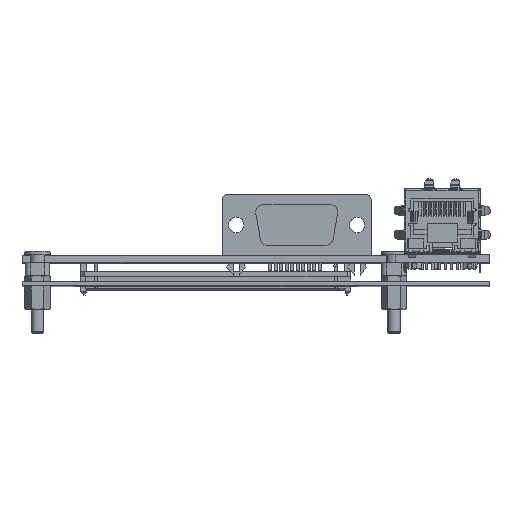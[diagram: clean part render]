
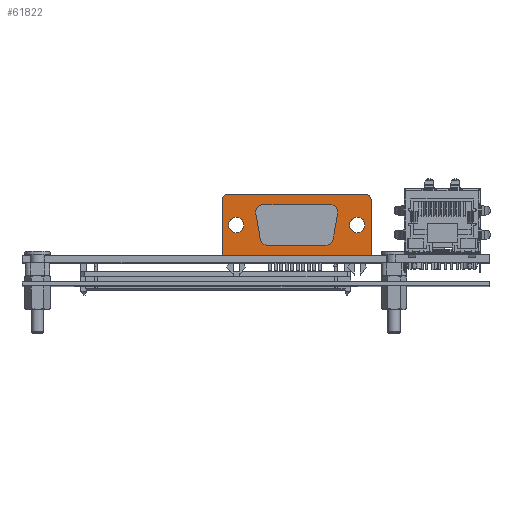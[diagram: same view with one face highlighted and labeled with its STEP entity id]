
A CAD part, top view. The second image highlights one B-rep face of the part: STEP entity #61822.
In plain terms, the highlighted planar face has unit normal (0, 0, 1).
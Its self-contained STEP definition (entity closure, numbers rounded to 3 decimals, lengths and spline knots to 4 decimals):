
#7135=DIRECTION('',(1.,0.,0.));
#7136=VECTOR('',#7135,1.213);
#7137=CARTESIAN_POINT('',(-0.2724,0.062,-0.8358));
#7138=LINE('',#7137,#7136);
#11996=DIRECTION('',(0.,-1.,0.));
#11997=VECTOR('',#11996,0.449);
#11998=CARTESIAN_POINT('',(-0.2724,0.511,-0.8358));
#11999=LINE('',#11998,#11997);
#12000=DIRECTION('',(-1.,0.,0.));
#12001=VECTOR('',#12000,1.123);
#12002=CARTESIAN_POINT('',(0.8956,0.556,-0.8358));
#12003=LINE('',#12002,#12001);
#12004=DIRECTION('',(0.,1.,0.));
#12005=VECTOR('',#12004,0.449);
#12006=CARTESIAN_POINT('',(0.9406,0.062,-0.8358));
#12007=LINE('',#12006,#12005);
#12008=CARTESIAN_POINT('',(-0.1579,0.309,-0.8358));
#12009=DIRECTION('',(0.,0.,1.));
#12010=DIRECTION('',(1.,0.,0.));
#12011=AXIS2_PLACEMENT_3D('',#12008,#12009,#12010);
#12013=CARTESIAN_POINT('',(-0.1579,0.309,-0.8358));
#12014=DIRECTION('',(0.,0.,1.));
#12015=DIRECTION('',(-1.,0.,0.));
#12016=AXIS2_PLACEMENT_3D('',#12013,#12014,#12015);
#12018=CARTESIAN_POINT('',(0.8261,0.309,-0.8358));
#12019=DIRECTION('',(0.,0.,1.));
#12020=DIRECTION('',(1.,0.,0.));
#12021=AXIS2_PLACEMENT_3D('',#12018,#12019,#12020);
#12023=CARTESIAN_POINT('',(0.8261,0.309,-0.8358));
#12024=DIRECTION('',(0.,0.,1.));
#12025=DIRECTION('',(-1.,0.,0.));
#12026=AXIS2_PLACEMENT_3D('',#12023,#12024,#12025);
#12028=DIRECTION('',(1.,0.,0.));
#12029=VECTOR('',#12028,0.4754);
#12030=CARTESIAN_POINT('',(0.0964,0.1445,-0.8358));
#12031=LINE('',#12030,#12029);
#12032=CARTESIAN_POINT('',(0.5718,0.2035,-0.8358));
#12033=DIRECTION('',(0.,0.,1.));
#12034=DIRECTION('',(0.,-1.,0.));
#12035=AXIS2_PLACEMENT_3D('',#12032,#12033,#12034);
#12037=DIRECTION('',(0.174,0.985,0.));
#12038=VECTOR('',#12037,0.2143);
#12039=CARTESIAN_POINT('',(0.6299,0.1933,-0.8358));
#12040=LINE('',#12039,#12038);
#12041=CARTESIAN_POINT('',(0.609,0.4145,-0.8358));
#12042=DIRECTION('',(0.,0.,1.));
#12043=DIRECTION('',(0.985,-0.174,0.));
#12044=AXIS2_PLACEMENT_3D('',#12041,#12042,#12043);
#12046=DIRECTION('',(-1.,0.,0.));
#12047=VECTOR('',#12046,0.5498);
#12048=CARTESIAN_POINT('',(0.609,0.4735,-0.8358));
#12049=LINE('',#12048,#12047);
#12050=CARTESIAN_POINT('',(0.0592,0.4145,-0.8358));
#12051=DIRECTION('',(0.,0.,1.));
#12052=DIRECTION('',(0.,1.,0.));
#12053=AXIS2_PLACEMENT_3D('',#12050,#12051,#12052);
#12055=DIRECTION('',(0.174,-0.985,0.));
#12056=VECTOR('',#12055,0.2143);
#12057=CARTESIAN_POINT('',(0.0011,0.4043,-0.8358));
#12058=LINE('',#12057,#12056);
#12059=CARTESIAN_POINT('',(0.0964,0.2035,-0.8358));
#12060=DIRECTION('',(0.,0.,1.));
#12061=DIRECTION('',(-0.985,-0.174,0.));
#12062=AXIS2_PLACEMENT_3D('',#12059,#12060,#12061);
#12204=CARTESIAN_POINT('',(0.8956,0.511,-0.8358));
#12205=DIRECTION('',(0.,0.,1.));
#12206=DIRECTION('',(1.,0.,0.));
#12207=AXIS2_PLACEMENT_3D('',#12204,#12205,#12206);
#12226=CARTESIAN_POINT('',(-0.2274,0.511,-0.8358));
#12227=DIRECTION('',(0.,0.,1.));
#12228=DIRECTION('',(0.,1.,0.));
#12229=AXIS2_PLACEMENT_3D('',#12226,#12227,#12228);
#39624=CARTESIAN_POINT('',(-0.0954,0.309,-0.8358));
#39625=CARTESIAN_POINT('',(-0.2204,0.309,-0.8358));
#39626=VERTEX_POINT('',#39624);
#39627=VERTEX_POINT('',#39625);
#39628=CARTESIAN_POINT('',(0.8886,0.309,-0.8358));
#39629=CARTESIAN_POINT('',(0.7636,0.309,-0.8358));
#39630=VERTEX_POINT('',#39628);
#39631=VERTEX_POINT('',#39629);
#39692=CARTESIAN_POINT('',(0.0964,0.1445,-0.8358));
#39693=CARTESIAN_POINT('',(0.5718,0.1445,-0.8358));
#39694=VERTEX_POINT('',#39692);
#39695=VERTEX_POINT('',#39693);
#39696=CARTESIAN_POINT('',(0.6671,0.4043,-0.8358));
#39697=CARTESIAN_POINT('',(0.609,0.4735,-0.8358));
#39698=VERTEX_POINT('',#39696);
#39699=VERTEX_POINT('',#39697);
#39708=CARTESIAN_POINT('',(0.6299,0.1933,-0.8358));
#39709=VERTEX_POINT('',#39708);
#39710=CARTESIAN_POINT('',(0.0592,0.4735,-0.8358));
#39711=VERTEX_POINT('',#39710);
#39712=CARTESIAN_POINT('',(0.0011,0.4043,-0.8358));
#39713=VERTEX_POINT('',#39712);
#39714=CARTESIAN_POINT('',(0.0383,0.1933,-0.8358));
#39715=VERTEX_POINT('',#39714);
#39956=CARTESIAN_POINT('',(0.9406,0.511,-0.8358));
#39958=VERTEX_POINT('',#39956);
#39960=CARTESIAN_POINT('',(0.8956,0.556,-0.8358));
#39961=VERTEX_POINT('',#39960);
#39964=CARTESIAN_POINT('',(-0.2274,0.556,-0.8358));
#39966=VERTEX_POINT('',#39964);
#39968=CARTESIAN_POINT('',(-0.2724,0.511,-0.8358));
#39969=VERTEX_POINT('',#39968);
#39976=CARTESIAN_POINT('',(-0.2724,0.062,-0.8358));
#39977=CARTESIAN_POINT('',(0.9406,0.062,-0.8358));
#39978=VERTEX_POINT('',#39976);
#39979=VERTEX_POINT('',#39977);
#61775=CARTESIAN_POINT('',(0.3341,0.309,-0.8358));
#61776=DIRECTION('',(0.,0.,1.));
#61777=DIRECTION('',(1.,0.,0.));
#61778=AXIS2_PLACEMENT_3D('',#61775,#61776,#61777);
#61779=PLANE('',#61778);
#61781=ORIENTED_EDGE('',*,*,#61780,.F.);
#61783=ORIENTED_EDGE('',*,*,#61782,.F.);
#61785=ORIENTED_EDGE('',*,*,#61784,.F.);
#61787=ORIENTED_EDGE('',*,*,#61786,.F.);
#61788=ORIENTED_EDGE('',*,*,#61759,.F.);
#61789=ORIENTED_EDGE('',*,*,#56992,.F.);
#61790=EDGE_LOOP('',(#61781,#61783,#61785,#61787,#61788,#61789));
#61791=FACE_OUTER_BOUND('',#61790,.F.);
#61793=ORIENTED_EDGE('',*,*,#61792,.T.);
#61795=ORIENTED_EDGE('',*,*,#61794,.T.);
#61796=EDGE_LOOP('',(#61793,#61795));
#61797=FACE_BOUND('',#61796,.F.);
#61799=ORIENTED_EDGE('',*,*,#61798,.T.);
#61801=ORIENTED_EDGE('',*,*,#61800,.T.);
#61802=EDGE_LOOP('',(#61799,#61801));
#61803=FACE_BOUND('',#61802,.F.);
#61805=ORIENTED_EDGE('',*,*,#61804,.T.);
#61807=ORIENTED_EDGE('',*,*,#61806,.T.);
#61809=ORIENTED_EDGE('',*,*,#61808,.T.);
#61811=ORIENTED_EDGE('',*,*,#61810,.T.);
#61813=ORIENTED_EDGE('',*,*,#61812,.T.);
#61815=ORIENTED_EDGE('',*,*,#61814,.T.);
#61817=ORIENTED_EDGE('',*,*,#61816,.T.);
#61819=ORIENTED_EDGE('',*,*,#61818,.T.);
#61820=EDGE_LOOP('',(#61805,#61807,#61809,#61811,#61813,#61815,#61817,#61819));
#61821=FACE_BOUND('',#61820,.F.);
#61822=ADVANCED_FACE('',(#61791,#61797,#61803,#61821),#61779,.T.);
#12012=CIRCLE('',#12011,0.0625);
#12017=CIRCLE('',#12016,0.0625);
#12022=CIRCLE('',#12021,0.0625);
#12027=CIRCLE('',#12026,0.0625);
#12036=CIRCLE('',#12035,0.059);
#12045=CIRCLE('',#12044,0.059);
#12054=CIRCLE('',#12053,0.059);
#12063=CIRCLE('',#12062,0.059);
#12208=CIRCLE('',#12207,0.045);
#12230=CIRCLE('',#12229,0.045);
#56992=EDGE_CURVE('',#39978,#39979,#7138,.T.);
#61759=EDGE_CURVE('',#39979,#39958,#12007,.T.);
#61780=EDGE_CURVE('',#39969,#39978,#11999,.T.);
#61782=EDGE_CURVE('',#39966,#39969,#12230,.T.);
#61784=EDGE_CURVE('',#39961,#39966,#12003,.T.);
#61786=EDGE_CURVE('',#39958,#39961,#12208,.T.);
#61792=EDGE_CURVE('',#39626,#39627,#12012,.T.);
#61794=EDGE_CURVE('',#39627,#39626,#12017,.T.);
#61798=EDGE_CURVE('',#39630,#39631,#12022,.T.);
#61800=EDGE_CURVE('',#39631,#39630,#12027,.T.);
#61804=EDGE_CURVE('',#39694,#39695,#12031,.T.);
#61806=EDGE_CURVE('',#39695,#39709,#12036,.T.);
#61808=EDGE_CURVE('',#39709,#39698,#12040,.T.);
#61810=EDGE_CURVE('',#39698,#39699,#12045,.T.);
#61812=EDGE_CURVE('',#39699,#39711,#12049,.T.);
#61814=EDGE_CURVE('',#39711,#39713,#12054,.T.);
#61816=EDGE_CURVE('',#39713,#39715,#12058,.T.);
#61818=EDGE_CURVE('',#39715,#39694,#12063,.T.);
